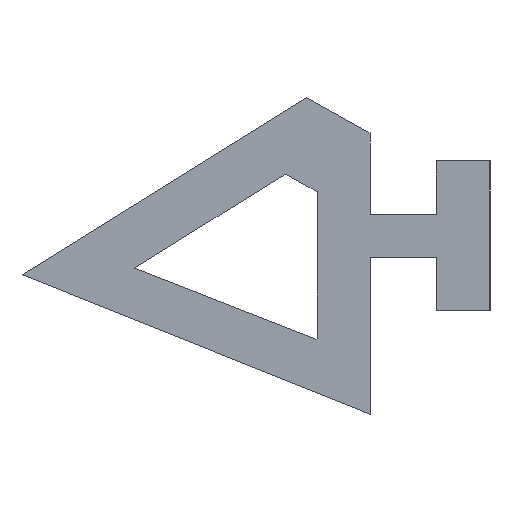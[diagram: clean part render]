
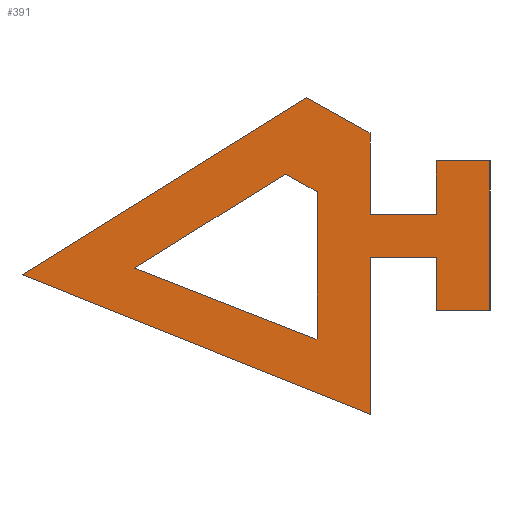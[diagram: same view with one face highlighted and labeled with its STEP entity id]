
A CAD part, left-side view. The second image highlights one B-rep face of the part: STEP entity #391.
In plain terms, the highlighted planar face has unit normal (-1, 0, 0).
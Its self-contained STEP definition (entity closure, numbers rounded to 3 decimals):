
#24=FACE_BOUND('',#64,.T.);
#43=FACE_OUTER_BOUND('',#63,.T.);
#63=EDGE_LOOP('',(#337,#338,#339,#340,#341,#342,#343,#344,#345,#346,#347,
#348));
#64=EDGE_LOOP('',(#349,#350,#351,#352,#353));
#67=LINE('',#534,#118);
#71=LINE('',#543,#122);
#75=LINE('',#550,#126);
#76=LINE('',#554,#127);
#82=LINE('',#565,#133);
#96=LINE('',#591,#147);
#98=LINE('',#595,#149);
#100=LINE('',#600,#151);
#103=LINE('',#606,#154);
#105=LINE('',#609,#156);
#107=LINE('',#613,#158);
#108=LINE('',#615,#159);
#109=LINE('',#617,#160);
#110=LINE('',#620,#161);
#112=LINE('',#623,#163);
#113=LINE('',#626,#164);
#115=LINE('',#629,#166);
#118=VECTOR('',#436,10.);
#122=VECTOR('',#442,10.);
#126=VECTOR('',#448,10.);
#127=VECTOR('',#451,10.);
#133=VECTOR('',#459,10.);
#147=VECTOR('',#477,10.);
#149=VECTOR('',#481,10.);
#151=VECTOR('',#485,10.);
#154=VECTOR('',#490,10.);
#156=VECTOR('',#494,10.);
#158=VECTOR('',#498,10.);
#159=VECTOR('',#501,10.);
#160=VECTOR('',#504,10.);
#161=VECTOR('',#507,10.);
#163=VECTOR('',#511,10.);
#164=VECTOR('',#514,10.);
#166=VECTOR('',#518,10.);
#169=VERTEX_POINT('',#531);
#170=VERTEX_POINT('',#533);
#173=VERTEX_POINT('',#540);
#174=VERTEX_POINT('',#542);
#176=VERTEX_POINT('',#548);
#177=VERTEX_POINT('',#552);
#178=VERTEX_POINT('',#553);
#182=VERTEX_POINT('',#563);
#192=VERTEX_POINT('',#589);
#193=VERTEX_POINT('',#593);
#194=VERTEX_POINT('',#597);
#195=VERTEX_POINT('',#599);
#196=VERTEX_POINT('',#603);
#197=VERTEX_POINT('',#605);
#198=VERTEX_POINT('',#611);
#199=VERTEX_POINT('',#619);
#200=VERTEX_POINT('',#625);
#203=EDGE_CURVE('',#169,#170,#67,.T.);
#207=EDGE_CURVE('',#173,#174,#71,.T.);
#211=EDGE_CURVE('',#173,#176,#75,.T.);
#212=EDGE_CURVE('',#177,#178,#76,.T.);
#218=EDGE_CURVE('',#177,#182,#82,.T.);
#232=EDGE_CURVE('',#192,#176,#96,.T.);
#234=EDGE_CURVE('',#192,#193,#98,.T.);
#236=EDGE_CURVE('',#195,#194,#100,.T.);
#239=EDGE_CURVE('',#197,#196,#103,.T.);
#241=EDGE_CURVE('',#196,#178,#105,.T.);
#243=EDGE_CURVE('',#182,#198,#107,.T.);
#244=EDGE_CURVE('',#198,#195,#108,.T.);
#245=EDGE_CURVE('',#193,#174,#109,.T.);
#246=EDGE_CURVE('',#199,#197,#110,.T.);
#248=EDGE_CURVE('',#199,#169,#112,.T.);
#249=EDGE_CURVE('',#200,#170,#113,.T.);
#251=EDGE_CURVE('',#194,#200,#115,.T.);
#337=ORIENTED_EDGE('',*,*,#212,.F.);
#338=ORIENTED_EDGE('',*,*,#218,.T.);
#339=ORIENTED_EDGE('',*,*,#243,.T.);
#340=ORIENTED_EDGE('',*,*,#244,.T.);
#341=ORIENTED_EDGE('',*,*,#236,.T.);
#342=ORIENTED_EDGE('',*,*,#251,.T.);
#343=ORIENTED_EDGE('',*,*,#249,.T.);
#344=ORIENTED_EDGE('',*,*,#203,.F.);
#345=ORIENTED_EDGE('',*,*,#248,.F.);
#346=ORIENTED_EDGE('',*,*,#246,.T.);
#347=ORIENTED_EDGE('',*,*,#239,.T.);
#348=ORIENTED_EDGE('',*,*,#241,.T.);
#349=ORIENTED_EDGE('',*,*,#234,.T.);
#350=ORIENTED_EDGE('',*,*,#245,.T.);
#351=ORIENTED_EDGE('',*,*,#207,.F.);
#352=ORIENTED_EDGE('',*,*,#211,.T.);
#353=ORIENTED_EDGE('',*,*,#232,.F.);
#372=PLANE('',#425);
#391=ADVANCED_FACE('',(#43,#24),#372,.T.);
#425=AXIS2_PLACEMENT_3D('',#630,#519,#520);
#436=DIRECTION('',(0.,0.,-1.));
#442=DIRECTION('',(0.,0.874,0.485));
#448=DIRECTION('',(0.,0.,-1.));
#451=DIRECTION('',(0.,-0.874,-0.485));
#459=DIRECTION('',(0.,0.849,-0.529));
#477=DIRECTION('',(0.,-0.826,0.563));
#481=DIRECTION('',(0.,0.931,0.365));
#485=DIRECTION('',(0.,-1.,0.));
#490=DIRECTION('',(0.,1.,0.));
#494=DIRECTION('',(0.,0.,1.));
#498=DIRECTION('',(0.,-0.928,-0.372));
#501=DIRECTION('',(0.,0.,1.));
#504=DIRECTION('',(0.,-0.849,0.529));
#507=DIRECTION('',(0.,0.,-1.));
#511=DIRECTION('',(0.,-1.,0.));
#514=DIRECTION('',(0.,-1.,0.));
#518=DIRECTION('',(0.,0.,-1.));
#519=DIRECTION('center_axis',(-1.,0.,0.));
#520=DIRECTION('ref_axis',(0.,0.,1.));
#531=CARTESIAN_POINT('',(74.,26.258,6.9));
#533=CARTESIAN_POINT('',(74.,26.258,0.9));
#534=CARTESIAN_POINT('',(74.,26.258,0.9));
#540=CARTESIAN_POINT('',(74.,33.171,5.66));
#542=CARTESIAN_POINT('',(74.,34.444,6.367));
#543=CARTESIAN_POINT('',(74.,34.125,6.19));
#548=CARTESIAN_POINT('',(74.,33.171,-0.191));
#550=CARTESIAN_POINT('',(74.,33.171,7.472));
#552=CARTESIAN_POINT('',(74.,33.604,9.429));
#553=CARTESIAN_POINT('',(74.,31.058,8.015));
#554=CARTESIAN_POINT('',(74.,32.637,8.892));
#563=CARTESIAN_POINT('',(74.,44.978,2.343));
#565=CARTESIAN_POINT('',(74.,44.978,2.343));
#589=CARTESIAN_POINT('',(74.,33.23,-0.231));
#591=CARTESIAN_POINT('',(74.,33.141,-0.17));
#593=CARTESIAN_POINT('',(74.,40.474,2.611));
#595=CARTESIAN_POINT('',(74.,32.671,-0.451));
#597=CARTESIAN_POINT('',(74.,28.408,3.05));
#599=CARTESIAN_POINT('',(74.,31.058,3.05));
#600=CARTESIAN_POINT('',(74.,33.438,3.05));
#603=CARTESIAN_POINT('',(74.,31.058,4.75));
#605=CARTESIAN_POINT('',(74.,28.408,4.75));
#606=CARTESIAN_POINT('',(74.,32.238,4.75));
#609=CARTESIAN_POINT('',(74.,31.058,4.393));
#611=CARTESIAN_POINT('',(74.,31.058,-3.244));
#613=CARTESIAN_POINT('',(74.,31.058,-3.244));
#615=CARTESIAN_POINT('',(74.,31.058,2.9));
#617=CARTESIAN_POINT('',(74.,40.474,2.611));
#619=CARTESIAN_POINT('',(74.,28.408,6.9));
#620=CARTESIAN_POINT('',(74.,28.408,4.9));
#623=CARTESIAN_POINT('',(74.,26.658,6.9));
#625=CARTESIAN_POINT('',(74.,28.408,0.9));
#626=CARTESIAN_POINT('',(74.,28.658,0.9));
#629=CARTESIAN_POINT('',(74.,28.408,3.393));
#630=CARTESIAN_POINT('Origin',(74.,35.818,3.885));
